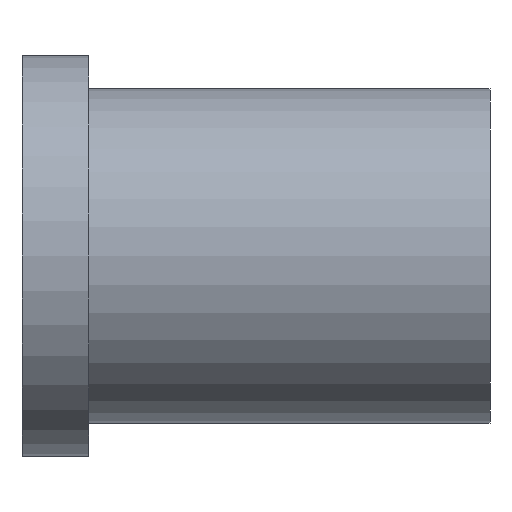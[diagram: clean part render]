
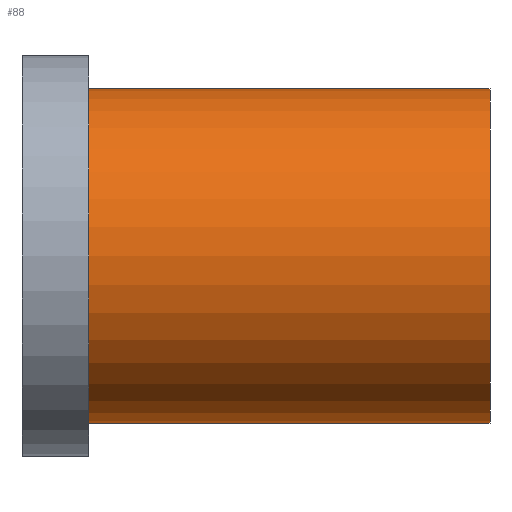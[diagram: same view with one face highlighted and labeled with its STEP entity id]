
A CAD part, front view. The second image highlights one B-rep face of the part: STEP entity #88.
In plain terms, the highlighted cylindrical face has radius 5 mm (diameter 10 mm), a full revolution.
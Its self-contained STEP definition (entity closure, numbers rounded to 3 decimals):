
#25=FACE_OUTER_BOUND('',#33,.T.);
#33=EDGE_LOOP('',(#75,#76,#77,#78));
#38=LINE('',#171,#41);
#41=VECTOR('',#148,5.);
#46=CIRCLE('',#118,5.);
#47=CIRCLE('',#120,5.);
#52=VERTEX_POINT('',#166);
#53=VERTEX_POINT('',#169);
#60=EDGE_CURVE('',#52,#52,#46,.T.);
#61=EDGE_CURVE('',#53,#53,#47,.T.);
#62=EDGE_CURVE('',#53,#52,#38,.T.);
#75=ORIENTED_EDGE('',*,*,#61,.F.);
#76=ORIENTED_EDGE('',*,*,#62,.T.);
#77=ORIENTED_EDGE('',*,*,#60,.T.);
#78=ORIENTED_EDGE('',*,*,#62,.F.);
#83=CYLINDRICAL_SURFACE('',#119,5.);
#88=ADVANCED_FACE('',(#25),#83,.T.);
#118=AXIS2_PLACEMENT_3D('',#167,#142,#143);
#119=AXIS2_PLACEMENT_3D('',#168,#144,#145);
#120=AXIS2_PLACEMENT_3D('',#170,#146,#147);
#142=DIRECTION('center_axis',(1.,0.,0.));
#143=DIRECTION('ref_axis',(0.,0.,-1.));
#144=DIRECTION('center_axis',(1.,0.,0.));
#145=DIRECTION('ref_axis',(0.,1.,0.));
#146=DIRECTION('center_axis',(1.,0.,0.));
#147=DIRECTION('ref_axis',(0.,0.,-1.));
#148=DIRECTION('',(-1.,0.,0.));
#166=CARTESIAN_POINT('',(2.,-5.,0.));
#167=CARTESIAN_POINT('Origin',(2.,0.,0.));
#168=CARTESIAN_POINT('Origin',(8.,0.,0.));
#169=CARTESIAN_POINT('',(14.,-5.,0.));
#170=CARTESIAN_POINT('Origin',(14.,0.,0.));
#171=CARTESIAN_POINT('',(8.,-5.,0.));
